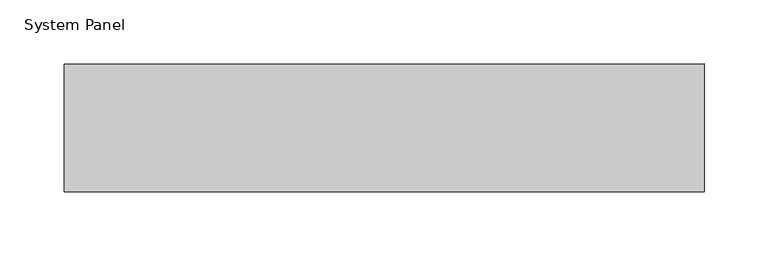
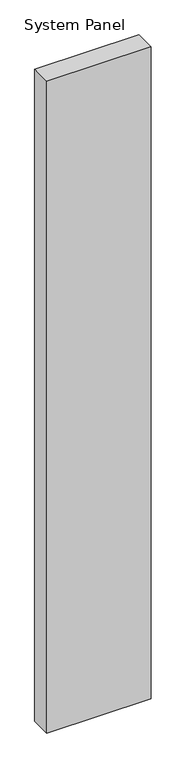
"""IFC4 building model written with IfcOpenShell, lengths in millimetres: plate geometry, System Panel : MetecnoPanel_100mm_Plain_Surfmist."""

from ifc_helpers import new_model, si_unit, origin, origin_with_axes, place, context, project, spatial, polyline, outline, extrude, source, transform, mapped, element, save


def system_panel_6aaf0e04(model_context):
    return source(origin(), model_context, "Body", "SweptSolid", [
        extrude(outline(polyline([(250.0, 0.0), (-250.0, 0.0), (-250.0, 100.0), (250.0, 100.0), (250.0, 0.0)])), origin_with_axes(), (0.0, 0.0, 1.0), 3300.0),
    ])


if __name__ == "__main__":
    model = new_model("IFC4")
    model_context = context("Model", 3, world=origin())
    ifc_project = project(units=[si_unit("LENGTHUNIT", "METRE", prefix="MILLI")], contexts=[model_context])
    site = spatial("IfcSite", under=ifc_project)
    building = spatial("IfcBuilding", under=site)
    placement = place(None, origin())
    system_panel_shape = system_panel_6aaf0e04(model_context)
    element("IfcPlate", 1, ObjectType="System Panel : MetecnoPanel_100mm_Plain_Surfmist", at=placement, inside=building, context=model_context, shape_type="MappedRepresentation", body=[
        mapped(system_panel_shape, transform((0.0, 0.0, 0.0), x_axis=(1.0, 0.0, 0.0), y_axis=(0.0, 1.0, 0.0), z_axis=(0.0, 0.0, 1.0))),
    ])
    save(model, "model.ifc")
